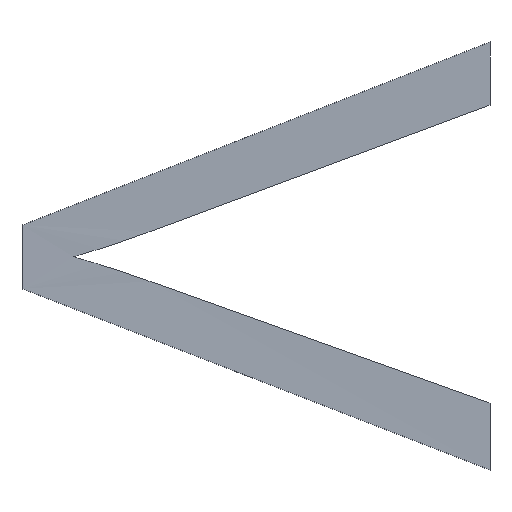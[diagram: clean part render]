
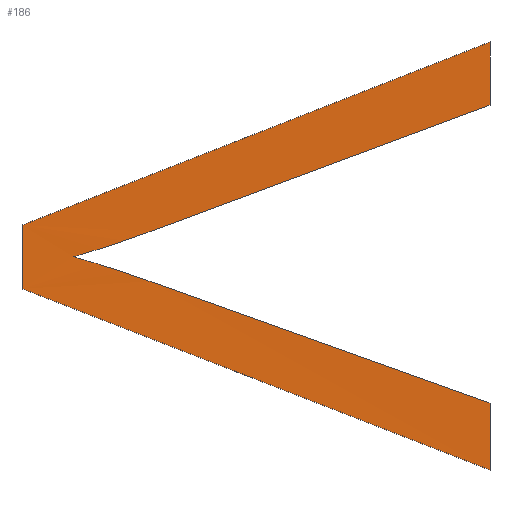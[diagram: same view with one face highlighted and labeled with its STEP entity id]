
A CAD part, top view. The second image highlights one B-rep face of the part: STEP entity #186.
In plain terms, the highlighted planar face has unit normal (0, 0, 1).
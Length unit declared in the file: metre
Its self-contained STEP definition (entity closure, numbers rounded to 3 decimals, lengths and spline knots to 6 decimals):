
#12=CIRCLE('',#196,0.002284);
#14=CIRCLE('',#199,0.002066);
#57=ORIENTED_EDGE('',*,*,#88,.T.);
#58=ORIENTED_EDGE('',*,*,#66,.T.);
#59=ORIENTED_EDGE('',*,*,#70,.T.);
#60=ORIENTED_EDGE('',*,*,#73,.T.);
#61=ORIENTED_EDGE('',*,*,#75,.T.);
#62=ORIENTED_EDGE('',*,*,#77,.T.);
#63=ORIENTED_EDGE('',*,*,#79,.T.);
#64=ORIENTED_EDGE('',*,*,#82,.T.);
#65=ORIENTED_EDGE('',*,*,#85,.T.);
#66=EDGE_CURVE('',#90,#91,#105,.T.);
#70=EDGE_CURVE('',#91,#94,#109,.F.);
#73=EDGE_CURVE('',#94,#96,#112,.T.);
#75=EDGE_CURVE('',#96,#97,#12,.F.);
#77=EDGE_CURVE('',#97,#98,#14,.T.);
#79=EDGE_CURVE('',#98,#99,#114,.T.);
#82=EDGE_CURVE('',#99,#101,#117,.F.);
#85=EDGE_CURVE('',#101,#103,#120,.T.);
#88=EDGE_CURVE('',#103,#90,#123,.T.);
#90=VERTEX_POINT('',#262);
#91=VERTEX_POINT('',#263);
#94=VERTEX_POINT('',#271);
#96=VERTEX_POINT('',#277);
#97=VERTEX_POINT('',#281);
#98=VERTEX_POINT('',#285);
#99=VERTEX_POINT('',#289);
#101=VERTEX_POINT('',#295);
#103=VERTEX_POINT('',#301);
#105=LINE('',#261,#125);
#109=LINE('',#270,#129);
#112=LINE('',#276,#132);
#114=LINE('',#288,#134);
#117=LINE('',#294,#137);
#120=LINE('',#300,#140);
#123=LINE('',#306,#143);
#125=VECTOR('',#211,1.);
#129=VECTOR('',#217,1.);
#132=VECTOR('',#222,1.);
#134=VECTOR('',#238,1.);
#137=VECTOR('',#243,1.);
#140=VECTOR('',#248,1.);
#143=VECTOR('',#253,1.);
#155=EDGE_LOOP('',(#57,#58,#59,#60,#61,#62,#63,#64,#65));
#166=FACE_BOUND('',#155,.T.);
#175=PLANE('',#206);
#186=ADVANCED_FACE('',(#166),#175,.F.);
#196=AXIS2_PLACEMENT_3D('',#280,#226,#227);
#199=AXIS2_PLACEMENT_3D('',#284,#232,#233);
#206=AXIS2_PLACEMENT_3D('',#309,#257,#258);
#211=DIRECTION('',(0.932,-0.361,0.));
#217=DIRECTION('',(0.,-1.,0.));
#222=DIRECTION('',(-0.942,0.337,0.));
#226=DIRECTION('',(0.,0.,-1.));
#227=DIRECTION('',(-1.,0.,0.));
#232=DIRECTION('',(0.,0.,1.));
#233=DIRECTION('',(-1.,0.,0.));
#238=DIRECTION('',(0.937,0.349,0.));
#243=DIRECTION('',(0.,-1.,0.));
#248=DIRECTION('',(-0.931,-0.365,0.));
#253=DIRECTION('',(0.,-1.,0.));
#257=DIRECTION('',(0.,0.,-1.));
#258=DIRECTION('',(0.,-1.,0.));
#261=CARTESIAN_POINT('',(-0.036413,0.00303,-0.03));
#262=CARTESIAN_POINT('',(-0.036413,0.00303,-0.03));
#263=CARTESIAN_POINT('',(-0.035413,0.002642,-0.03));
#270=CARTESIAN_POINT('',(-0.035413,0.,-0.03));
#271=CARTESIAN_POINT('',(-0.035413,0.002785,-0.03));
#276=CARTESIAN_POINT('',(-0.035413,0.002785,-0.03));
#277=CARTESIAN_POINT('',(-0.036139,0.003045,-0.030001));
#280=CARTESIAN_POINT('',(-0.036918,0.000899,-0.03));
#281=CARTESIAN_POINT('',(-0.036303,0.003098,-0.03));
#284=CARTESIAN_POINT('',(-0.036866,0.005086,-0.03));
#285=CARTESIAN_POINT('',(-0.036139,0.003152,-0.030001));
#288=CARTESIAN_POINT('',(-0.036139,0.003152,-0.03));
#289=CARTESIAN_POINT('',(-0.035413,0.003422,-0.03));
#294=CARTESIAN_POINT('',(-0.035413,0.,-0.03));
#295=CARTESIAN_POINT('',(-0.035413,0.003557,-0.03));
#300=CARTESIAN_POINT('',(-0.035413,0.003557,-0.03));
#301=CARTESIAN_POINT('',(-0.036413,0.003165,-0.03));
#306=CARTESIAN_POINT('',(-0.036413,0.,-0.03));
#309=CARTESIAN_POINT('',(-0.035913,0.,-0.03));
